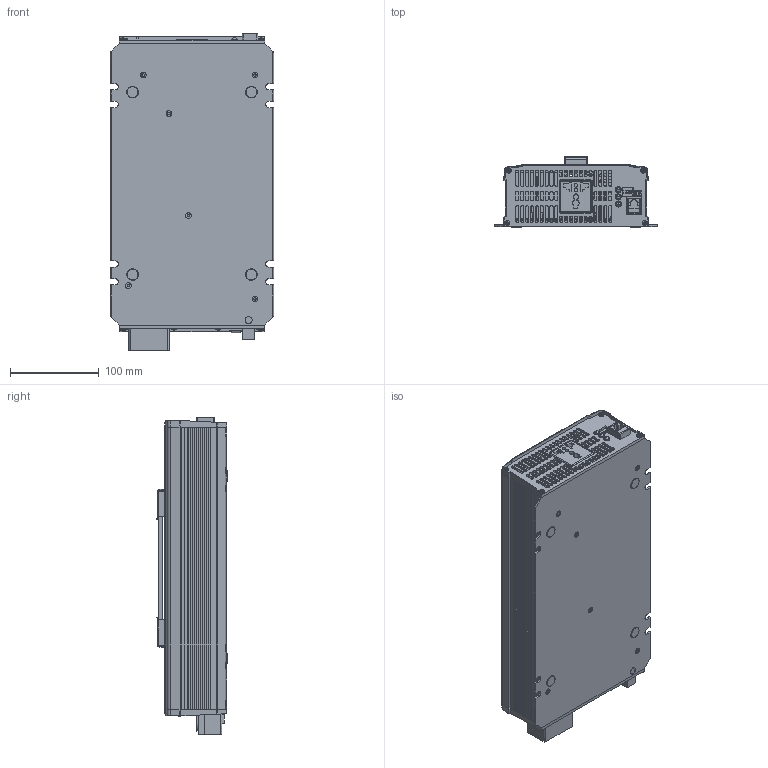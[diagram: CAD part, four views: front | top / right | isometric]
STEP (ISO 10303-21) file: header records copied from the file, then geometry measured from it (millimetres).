
FILE_DESCRIPTION(('Creo Elements/Direct Modeling STEP Export'),'2;1');
FILE_NAME('NTS-1200UN.stp','2021-07-01T11:52:08',(''),(''),'PTC Creo Elements/Direct Modeling STEP processor for AP214 (Solid Model)','PTC Creo Elements/Direct Modeling 19.0A 04-Oct-2014 (C) Parametric Technology GmbH','');
FILE_SCHEMA(('AUTOMOTIVE_DESIGN { 1 0 10303 214 1 1 1 1 }'));
Length unit declared in the file: millimetre
Products named in the file (115): 19-30286-1312__w__.1.1.1.1; 19-30286-1312__w__.1.1.1; 19-30286-1312__w__.1; 19-30286-1312__w__.1.1; 螺丝1; 19-30286-1312__w__.1.2; 19-30286-1312__w__.1.2.1; 19-30286-1312__w__.1.2.1.1; 19-30286-1312__w__.1.2.1.1.1; 螺丝1.1; 螺丝; 1xx3NTU-1200-I; PCBB; PCBA; PCBC; PCB; PCB-D; 9727R_PCB_ASM_ASM_ASM_16_ASM_1_.ASM; STANDARD_ASM_ASM_ASM_16_ASM_1_A.ASM; 拨码开关; E_1_PRT_16_1_1_5.PRT; E_PRT_16_1_1_5.PRT; LED_1_PRT_2_1_1_1_1_1_1_PRT_16_.PRT; P1.PRT; PHONE_JACK_1.PRT; 9727R_PCB.ASM; STANDARD.ASM; 9727R_PHII.ASM; DP1; 小卡装配; MOS15_5X10_1_1_1_1_1_1_1_1_1_2_.PRT.43; P3; MOSTO3P_1_1_PRT_16_1_1_5.PRT.41; MOSTO3P_1_1_PRT_16_1_1_5.PRT.40; T_7.PRT; MOSTO3P_1_1_PRT_16_1_1_5.PRT.42; 22; 33; AL_1_PRT_16_1_1_5.PRT; EE_2_PRT_16_1_1_5.PRT.22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
Assembly tree (132 placements, depth 8):
  NTU-1200
    1xx3NTS-1200CN-O
    万国插
    装配1
      1GG
        YS031W-074.1
        YS031W-074
        HS-SZ901
        CU-177  x2
        HS-659
          HS3_1_ASM_5.ASM
            HS3_5.PRT
            PIN_1_5.PRT
        HS-660
        33_PRT_16_1_1_5.PRT  x2
        HS-272B
      1HH
        1HH2NTU-1200A.1
        130x65
        THERMAL_PAD-2_5.PRT
        THERMAL_PAD-1_8.PRT
        SI_PRT_16_1_1_5.PRT
        SILICONE_PAD_5.PRT
        MYLAR_PRT_16_1_1_5.PRT
        MYLAR-2_5.PRT
        1HH2NTU-120019
      CASE
        PAD
          FOOT_PAD_7_1.PRT.30
          FOOT_PAD_7_1.PRT.31
          FOOT_PAD_7_1.PRT
          FOOT_PAD_7_1.PRT.29
        固纬把手
          174
          guwei1
          guwei1.1
        CASE上盖
        CASE下盖
          M3-7L_1_PRT_16_1_1_5.PRT.1
          M3-7L_1_PRT_16_1_1_5.PRT
          M3-7L_1_PRT_16_1_1_5.PRT.6
          M3-7L_1_PRT_16_1_1_5.PRT.5
          77_PRT_16_1_1_5.PRT
          M3-7L_1_PRT_16_1_1_5.PRT.7
          M3-7L_1_PRT_16_1_1_5.PRT.9
          CASE
      装配
        A1_1_ASM_ASM_ASM_16_ASM_1_ASM_1.ASM
          A_ASM_PRT_16_1_1_5.PRT
          ALL_ASM_ASM_ASM_16_ASM_1_ASM_1_.ASM
            MHS-2_PRT_PRT_16_1_1_5.PRT
            PCB_5_ASM_ASM_ASM_16_ASM_1_ASM_.ASM
              A3_ASM_ASM_ASM_16_ASM_1_ASM_1_A.ASM
                _S___S_C_S_Y_S___X2_02C6_X0_O__.PRT
                _S_Y_S_Q_S___S___PRT_PRT_16_1_1.PRT
            _S___S_U_S_KX_ASM_ASM_ASM_16_AS.ASM
              _S___S_G_S_NA_S___S_H_X2_02DC__.PRT
            PCB2_ASM_ASM_ASM_16_ASM_1_ASM_1.ASM
              JS100107_1_PRT_PRT_16_1_1_5.PRT
            PCB1_PRT_PRT_16_1_1_5.PRT
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Bounding box: 184 x 79.45 x 357.3 mm (x, y, z)
Volume: 983220.5 mm3; surface area: 868697.9 mm2
Topology: 94 solids, 94 shells, 3547 faces, 9248 edges, 6069 vertices
Faces by surface type: plane 2190, cylinder 856, cone 361, bspline 68, torus 46, sphere 24, extrusion 2
Entity records: 100951 total; most frequent: CARTESIAN_POINT 22763, ORIENTED_EDGE 16120, DIRECTION 14961, EDGE_CURVE 8046, VECTOR 5467, LINE 5465, VERTEX_POINT 5281, AXIS2_PLACEMENT_3D 4747
